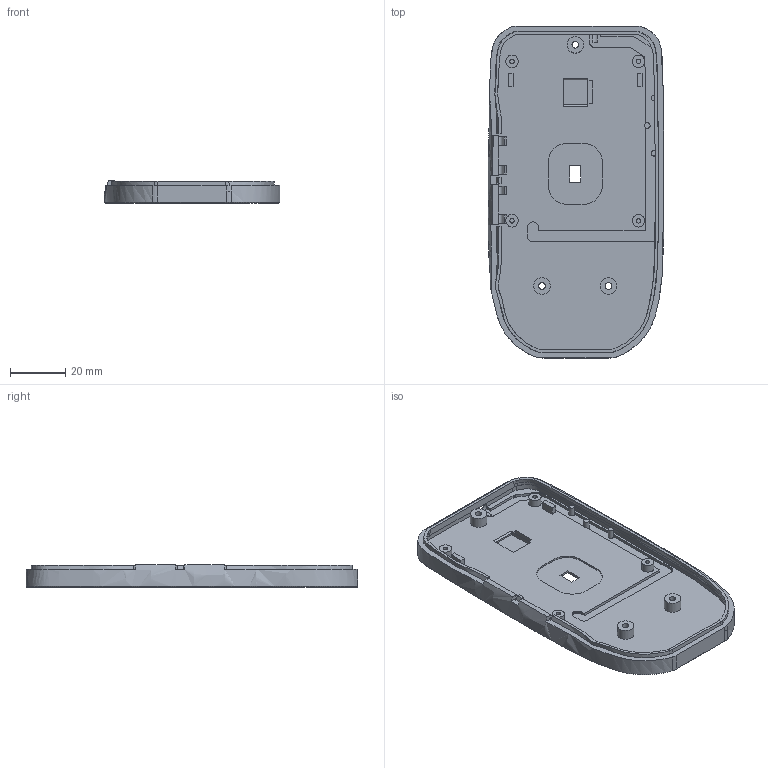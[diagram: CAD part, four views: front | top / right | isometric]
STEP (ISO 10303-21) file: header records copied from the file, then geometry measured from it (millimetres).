
FILE_DESCRIPTION(('Open CASCADE Model'),'2;1');
FILE_NAME('Open CASCADE Shape Model','2026-11-26T00:03:37',('Author'),( 'Open CASCADE'),'Open CASCADE STEP processor 7.9','build123d', 'Unknown');
FILE_SCHEMA(('AUTOMOTIVE_DESIGN { 1 0 10303 214 1 1 1 1 }'));
Products named in the file (1): SOLID
Bounding box: 63.5 x 120 x 8.1 mm (x, y, z)
Volume: 20493.5 mm3; surface area: 20804.3 mm2
Topology: 1 solids, 1 shells, 486 faces, 1376 edges, 914 vertices
Faces by surface type: plane 220, bspline 218, cylinder 47, cone 1
Full cylindrical faces by diameter (mm): 1.6 x4, 2 x3, 2.4 x3, 3.8 x1, 4.4 x3, 4.5 x4, 6 x3, 14 x1, 22 x1
Entity records: 854298 total; most frequent: CARTESIAN_POINT 831736, ORIENTED_EDGE 2752, PCURVE 2752, DEFINITIONAL_REPRESENTATION 2752, DIRECTION 2469, B_SPLINE_CURVE_WITH_KNOTS 2265, LINE 1649, VECTOR 1649
